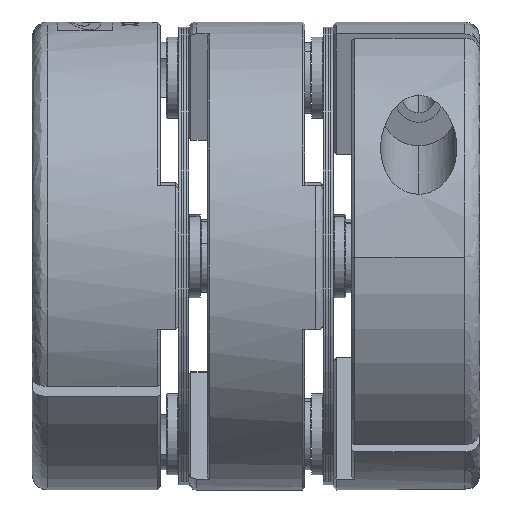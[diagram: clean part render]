
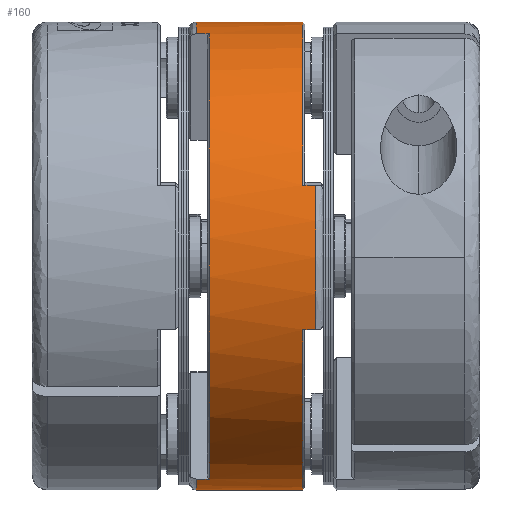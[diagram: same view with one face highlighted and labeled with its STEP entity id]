
A CAD part, left-side view. The second image highlights one B-rep face of the part: STEP entity #160.
In plain terms, the highlighted cylindrical face has radius 23 mm (diameter 46 mm), a partial arc.
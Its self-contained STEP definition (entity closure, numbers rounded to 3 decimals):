
#32 = ORIENTED_EDGE ( 'NONE', *, *, #33, .T. ) ;
#33 = EDGE_CURVE ( 'NONE', #79, #34, #2612, .T. ) ;
#34 = VERTEX_POINT ( 'NONE', #2608 ) ;
#35 = ORIENTED_EDGE ( 'NONE', *, *, #36, .F. ) ;
#36 = EDGE_CURVE ( 'NONE', #6639, #34, #2607, .T. ) ;
#37 = ORIENTED_EDGE ( 'NONE', *, *, #6638, .T. ) ;
#47 = EDGE_LOOP ( 'NONE', ( #48, #72, #73, #74, #77, #32, #35, #37, #6652, #6653, #6654, #307 ) ) ;
#48 = ORIENTED_EDGE ( 'NONE', *, *, #195, .F. ) ;
#72 = ORIENTED_EDGE ( 'NONE', *, *, #6760, .F. ) ;
#73 = ORIENTED_EDGE ( 'NONE', *, *, #6657, .F. ) ;
#74 = ORIENTED_EDGE ( 'NONE', *, *, #75, .T. ) ;
#75 = EDGE_CURVE ( 'NONE', #6667, #76, #2660, .T. ) ;
#76 = VERTEX_POINT ( 'NONE', #2655 ) ;
#77 = ORIENTED_EDGE ( 'NONE', *, *, #78, .F. ) ;
#78 = EDGE_CURVE ( 'NONE', #79, #76, #2654, .T. ) ;
#79 = VERTEX_POINT ( 'NONE', #2872 ) ;
#84 = EDGE_CURVE ( 'NONE', #208, #6550, #2794, .T. ) ;
#160 = ADVANCED_FACE ( 'NONE', ( #2851 ), #2850, .T. ) ;
#195 = EDGE_CURVE ( 'NONE', #6762, #6560, #3122, .T. ) ;
#208 = VERTEX_POINT ( 'NONE', #3061 ) ;
#216 = EDGE_CURVE ( 'NONE', #6559, #208, #3055, .T. ) ;
#307 = ORIENTED_EDGE ( 'NONE', *, *, #6544, .T. ) ;
#2604 = DIRECTION ( 'NONE',  ( 0., -1., 0. ) ) ;
#2605 = VECTOR ( 'NONE', #2604, 1000. ) ;
#2606 = CARTESIAN_POINT ( 'NONE',  ( -13.084, -6.013, -19.831 ) ) ;
#2607 = LINE ( 'NONE', #2606, #2605 ) ;
#2608 = CARTESIAN_POINT ( 'NONE',  ( -13.084, -6.213, -19.831 ) ) ;
#2609 = DIRECTION ( 'NONE',  ( 0.006, 0., -1. ) ) ;
#2610 = DIRECTION ( 'NONE',  ( 0., -1., 0. ) ) ;
#2611 = AXIS2_PLACEMENT_3D ( 'NONE', #2645, #2610, #2609 ) ;
#2612 = CIRCLE ( 'NONE', #2611, 23. ) ;
#2645 = CARTESIAN_POINT ( 'NONE',  ( -6.114, -6.213, 2.088 ) ) ;
#2653 = CARTESIAN_POINT ( 'NONE',  ( -13.359, -6.013, 23.917 ) ) ;
#2654 = LINE ( 'NONE', #2653, #2873 ) ;
#2655 = CARTESIAN_POINT ( 'NONE',  ( -13.359, -4.963, 23.917 ) ) ;
#2656 = DIRECTION ( 'NONE',  ( 0.006, 0., -1. ) ) ;
#2657 = DIRECTION ( 'NONE',  ( 0., -1., 0. ) ) ;
#2658 = CARTESIAN_POINT ( 'NONE',  ( -6.114, -4.963, 2.088 ) ) ;
#2659 = AXIS2_PLACEMENT_3D ( 'NONE', #2658, #2657, #2656 ) ;
#2660 = CIRCLE ( 'NONE', #2659, 23. ) ;
#2791 = DIRECTION ( 'NONE',  ( -0.006, 0., 1. ) ) ;
#2792 = DIRECTION ( 'NONE',  ( 0., -1., 0. ) ) ;
#2793 = AXIS2_PLACEMENT_3D ( 'NONE', #3009, #2792, #2791 ) ;
#2794 = CIRCLE ( 'NONE', #2793, 23. ) ;
#2845 = DIRECTION ( 'NONE',  ( 0.006, 0., -1. ) ) ;
#2846 = DIRECTION ( 'NONE',  ( 0., -1., 0. ) ) ;
#2847 = CARTESIAN_POINT ( 'NONE',  ( -6.114, -4.213, 2.088 ) ) ;
#2848 = AXIS2_PLACEMENT_3D ( 'NONE', #2847, #2846, #2845 ) ;
#2850 = CYLINDRICAL_SURFACE ( 'NONE', #2848, 23. ) ;
#2851 = FACE_OUTER_BOUND ( 'NONE', #47, .T. ) ;
#2872 = CARTESIAN_POINT ( 'NONE',  ( -13.359, -6.213, 23.917 ) ) ;
#2873 = VECTOR ( 'NONE', #2927, 1000. ) ;
#2927 = DIRECTION ( 'NONE',  ( 0., 1., 0. ) ) ;
#3009 = CARTESIAN_POINT ( 'NONE',  ( -6.114, -15.413, 2.088 ) ) ;
#3052 = DIRECTION ( 'NONE',  ( 0., 1., 0. ) ) ;
#3053 = VECTOR ( 'NONE', #3052, 1000. ) ;
#3054 = CARTESIAN_POINT ( 'NONE',  ( -27.943, -15.613, -5.157 ) ) ;
#3055 = LINE ( 'NONE', #3054, #3053 ) ;
#3061 = CARTESIAN_POINT ( 'NONE',  ( -27.943, -15.413, -5.157 ) ) ;
#3121 = CARTESIAN_POINT ( 'NONE',  ( -28.033, -15.613, 9.057 ) ) ;
#3122 = LINE ( 'NONE', #3121, #3183 ) ;
#3182 = DIRECTION ( 'NONE',  ( 0., -1., 0. ) ) ;
#3183 = VECTOR ( 'NONE', #3182, 1000. ) ;
#6544 = EDGE_CURVE ( 'NONE', #6559, #6560, #10668, .T. ) ;
#6550 = VERTEX_POINT ( 'NONE', #10594 ) ;
#6552 = EDGE_CURVE ( 'NONE', #6550, #6636, #10641, .T. ) ;
#6559 = VERTEX_POINT ( 'NONE', #10627 ) ;
#6560 = VERTEX_POINT ( 'NONE', #10626 ) ;
#6636 = VERTEX_POINT ( 'NONE', #10855 ) ;
#6638 = EDGE_CURVE ( 'NONE', #6639, #6636, #10854, .T. ) ;
#6639 = VERTEX_POINT ( 'NONE', #10898 ) ;
#6652 = ORIENTED_EDGE ( 'NONE', *, *, #6552, .F. ) ;
#6653 = ORIENTED_EDGE ( 'NONE', *, *, #84, .F. ) ;
#6654 = ORIENTED_EDGE ( 'NONE', *, *, #216, .F. ) ;
#6657 = EDGE_CURVE ( 'NONE', #6667, #6761, #10957, .T. ) ;
#6667 = VERTEX_POINT ( 'NONE', #10943 ) ;
#6760 = EDGE_CURVE ( 'NONE', #6761, #6762, #11063, .T. ) ;
#6761 = VERTEX_POINT ( 'NONE', #11055 ) ;
#6762 = VERTEX_POINT ( 'NONE', #11054 ) ;
#10594 = CARTESIAN_POINT ( 'NONE',  ( -5.97, -15.413, -20.912 ) ) ;
#10626 = CARTESIAN_POINT ( 'NONE',  ( -28.033, -16.663, 9.057 ) ) ;
#10627 = CARTESIAN_POINT ( 'NONE',  ( -27.943, -16.663, -5.157 ) ) ;
#10638 = DIRECTION ( 'NONE',  ( 0., 1., 0. ) ) ;
#10639 = VECTOR ( 'NONE', #10638, 1000. ) ;
#10640 = CARTESIAN_POINT ( 'NONE',  ( -5.97, -4.213, -20.912 ) ) ;
#10641 = LINE ( 'NONE', #10640, #10639 ) ;
#10665 = DIRECTION ( 'NONE',  ( 0.006, 0., -1. ) ) ;
#10666 = DIRECTION ( 'NONE',  ( 0., 1., 0. ) ) ;
#10667 = AXIS2_PLACEMENT_3D ( 'NONE', #10674, #10666, #10665 ) ;
#10668 = CIRCLE ( 'NONE', #10667, 23. ) ;
#10674 = CARTESIAN_POINT ( 'NONE',  ( -6.114, -16.663, 2.088 ) ) ;
#10850 = DIRECTION ( 'NONE',  ( 0.006, 0., -1. ) ) ;
#10851 = DIRECTION ( 'NONE',  ( 0., -1., 0. ) ) ;
#10852 = CARTESIAN_POINT ( 'NONE',  ( -6.114, -4.963, 2.088 ) ) ;
#10853 = AXIS2_PLACEMENT_3D ( 'NONE', #10852, #10851, #10850 ) ;
#10854 = CIRCLE ( 'NONE', #10853, 23. ) ;
#10855 = CARTESIAN_POINT ( 'NONE',  ( -5.97, -4.963, -20.912 ) ) ;
#10898 = CARTESIAN_POINT ( 'NONE',  ( -13.084, -4.963, -19.831 ) ) ;
#10943 = CARTESIAN_POINT ( 'NONE',  ( -6.259, -4.963, 25.087 ) ) ;
#10954 = DIRECTION ( 'NONE',  ( 0., -1., 0. ) ) ;
#10955 = VECTOR ( 'NONE', #10954, 1000. ) ;
#10956 = CARTESIAN_POINT ( 'NONE',  ( -6.259, -4.213, 25.087 ) ) ;
#10957 = LINE ( 'NONE', #10956, #10955 ) ;
#11054 = CARTESIAN_POINT ( 'NONE',  ( -28.033, -15.413, 9.057 ) ) ;
#11055 = CARTESIAN_POINT ( 'NONE',  ( -6.259, -15.413, 25.087 ) ) ;
#11056 = DIRECTION ( 'NONE',  ( -0.006, 0., 1. ) ) ;
#11057 = DIRECTION ( 'NONE',  ( 0., -1., 0. ) ) ;
#11058 = CARTESIAN_POINT ( 'NONE',  ( -6.114, -15.413, 2.088 ) ) ;
#11059 = AXIS2_PLACEMENT_3D ( 'NONE', #11058, #11057, #11056 ) ;
#11063 = CIRCLE ( 'NONE', #11059, 23. ) ;
